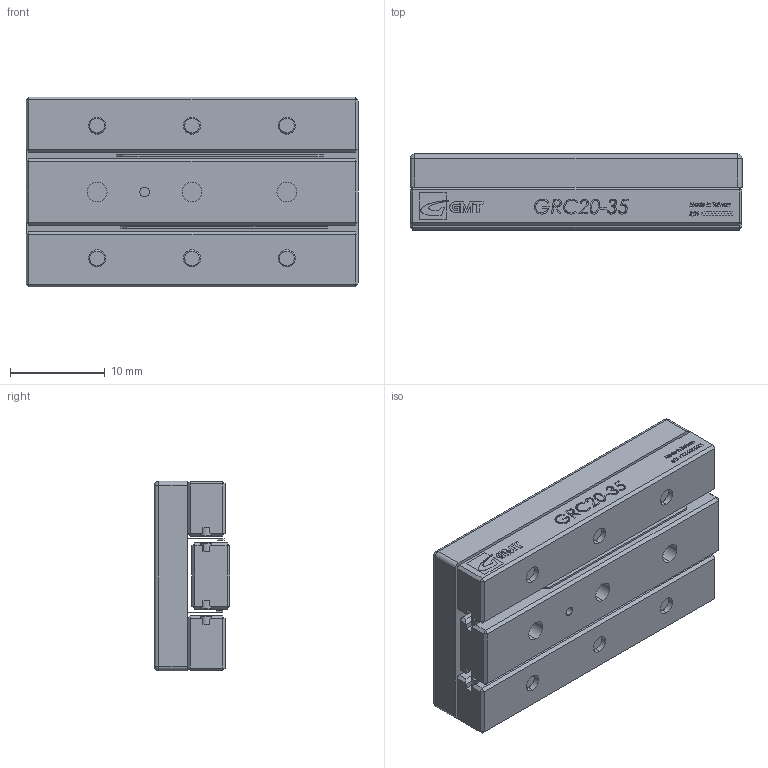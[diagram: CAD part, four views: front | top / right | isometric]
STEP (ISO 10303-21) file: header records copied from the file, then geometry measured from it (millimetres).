
FILE_DESCRIPTION (( 'STEP AP203' ), '1' );
FILE_NAME ('GRC20-35.STEP', '2012-10-19T08:10:42', ( '123' ), ( '' ), 'SwSTEP 2.0', 'SolidWorks 2012', '' );
FILE_SCHEMA (( 'CONFIG_CONTROL_DESIGN' ));
Length unit declared in the file: millimetre
Products named in the file (1): GRC20-35
Bounding box: 35 x 8 x 20 mm (x, y, z)
Surface area: 4140.8 mm2 (no closed solid volume)
Topology: 0 solids, 42 shells, 794 faces, 3348 edges, 2496 vertices
Faces by surface type: plane 494, bspline 142, cylinder 102, torus 28, cone 24, sphere 4
Entity records: 45786 total; most frequent: CARTESIAN_POINT 20193, ORIENTED_EDGE 4906, DIRECTION 4548, EDGE_CURVE 3332, VERTEX_POINT 2496, VECTOR 2266, LINE 2266, AXIS2_PLACEMENT_3D 1141
